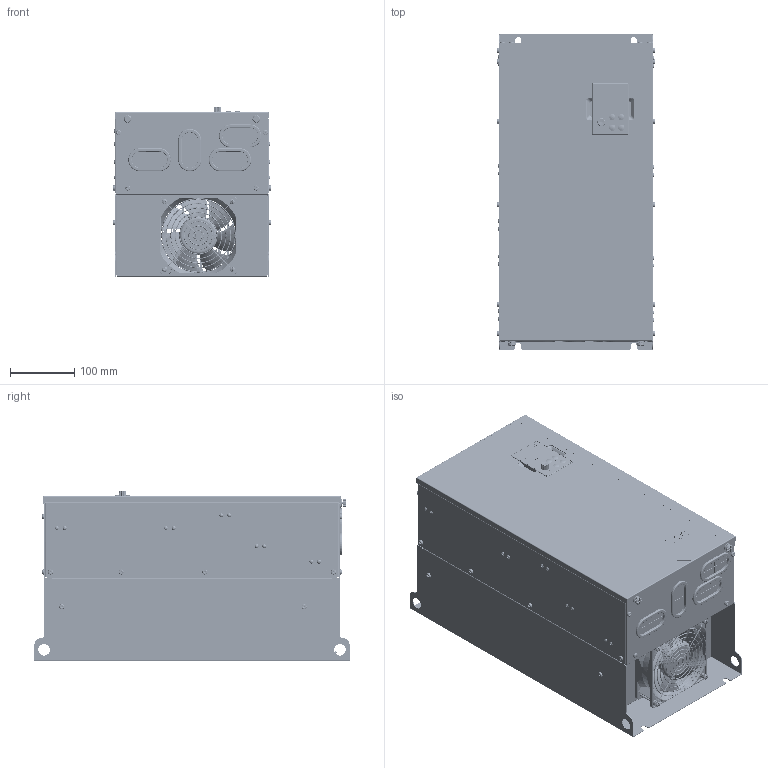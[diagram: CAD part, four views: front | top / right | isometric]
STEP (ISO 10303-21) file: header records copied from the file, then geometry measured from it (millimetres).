
FILE_DESCRIPTION((''),'2;1');
FILE_NAME('AD80-S5-DRIVE_37KW_ASM','2025-06-26T19:41:18',('wendong.luo'),(''),'CREO PARAMETRIC BY PTC INC, 2024374','CREO PARAMETRIC BY PTC INC, 2024374','');
FILE_SCHEMA(('CONFIG_CONTROL_DESIGN','GEOMETRIC_VALIDATION_PROPERTIES_MIM'));
Products named in the file (49): S5-MECHANICAL-PART_37KW; 25898; 35188; FAN12038_ASM; M0200009; M0202090; M4-SPRING; M4-WASHER; M0202090_ASM; FAN-37KW_ASM; M0100015; M0203190; E0400185; M0203245; M0204033; M0104220; M0202008; M0202003; P_FHS_5_10; PEM-BSO-M4-10; RIVETING-NUT-4_; M0100028; M0202010; FASTEN_37KW_ASM; E0100880; E0400088; E0400085; E0400023; E0400067; E0400008; E0400009; E0400035; E0100880_ASM; M0100238; M0100238_ASM; M4-MOUNTING-SCREW-RIVET; M0203053; AD80-S5-PU_37KW_ASM; KP10-MECHANICAL-PART; E0100867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
Assembly tree (133 placements, depth 5):
  AD80-S5-DRIVE_37KW_ASM
    AD80-S5-PU_37KW_ASM
      S5-MECHANICAL-PART_37KW
      FAN-37KW_ASM
        FAN12038_ASM
          25898
          35188
        M0200009
        M0202090_ASM  x4
          M0202090
          M4-SPRING
          M4-WASHER
      M0100015  x2
      M0203190
      E0400185
      M0203245
      M0204033  x5
      M0104220
      FASTEN_37KW_ASM
        M0202008  x20
        M0202003  x22
        P_FHS_5_10  x9
        PEM-BSO-M4-10  x4
        RIVETING-NUT-4_  x18
        M0100028
        M0202010  x2
      E0100880_ASM
        E0100880
        E0400088
        E0400085  x2
        E0400023
        E0400067
        E0400008
        E0400009  x2
        E0400035
      M0100238_ASM
        M0100238
      M4-MOUNTING-SCREW-RIVET  x2
      M0203053
    AD80-KP10_ASM
      KP10-MECHANICAL-PART
      E0100867_ASM
        E0100867
        E0400170
        E0400169
        E0200192
        E0200191
        0805-LED  x6
      KP10-FOIL
Bounding box: 246.2 x 490 x 265.55 mm (x, y, z)
Volume: 1506016.8 mm3; surface area: 2020325.1 mm2
Topology: 187 solids, 259 shells, 20706 faces, 53377 edges, 33925 vertices
Faces by surface type: plane 9775, cylinder 5111, bspline 2341, extrusion 1303, cone 1057, torus 767, sphere 352
Entity records: 641780 total; most frequent: CARTESIAN_POINT 168907, ORIENTED_EDGE 73504, DIRECTION 62760, EDGE_CURVE 36890, PRESENTATION_STYLE_ASSIGNMENT 32011, STYLED_ITEM 28598, CURVE_STYLE 27076, VECTOR 23896
